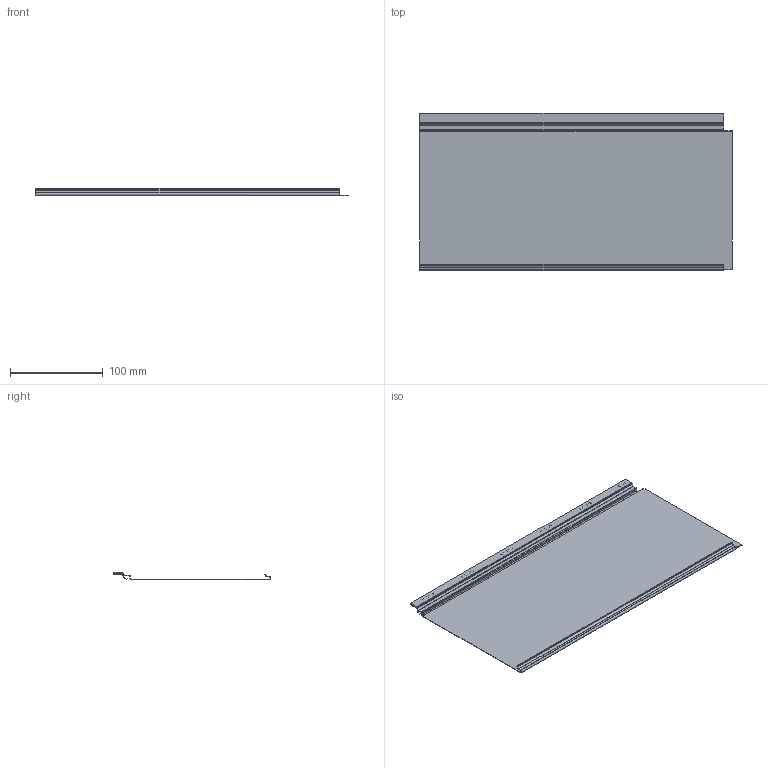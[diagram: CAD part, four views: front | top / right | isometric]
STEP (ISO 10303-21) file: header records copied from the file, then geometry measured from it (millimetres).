
FILE_DESCRIPTION (( 'STEP AP203' ), '1' );
FILE_NAME ('HARRYWOOD.STEP', '2018-06-13T21:26:09', ( 'Michael Moliner' ), ( '' ), 'SwSTEP 2.0', 'SolidWorks 2018', '' );
FILE_SCHEMA (( 'CONFIG_CONTROL_DESIGN' ));
Length unit declared in the file: millimetre
Products named in the file (2): HARRYWOOD
Bounding box: 337.63 x 170.1 x 8.13 mm (x, y, z)
Volume: 36631.9 mm3; surface area: 141775 mm2
Topology: 2 solids, 2 shells, 139 faces, 361 edges, 226 vertices
Faces by surface type: plane 84, cylinder 55
Entity records: 4410 total; most frequent: DIRECTION 757, CARTESIAN_POINT 728, ORIENTED_EDGE 722, EDGE_CURVE 361, AXIS2_PLACEMENT_3D 255, LINE 247, VECTOR 247, VERTEX_POINT 226
